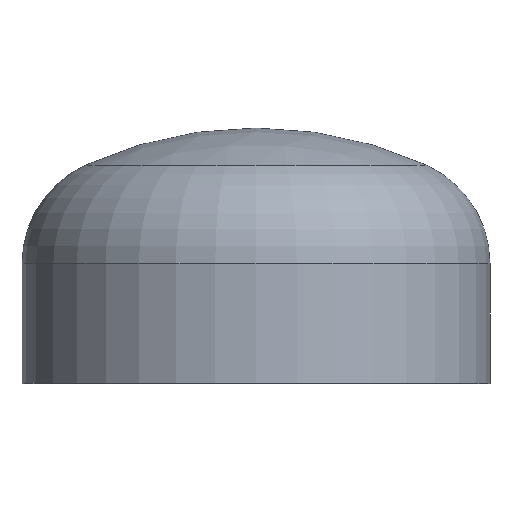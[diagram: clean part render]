
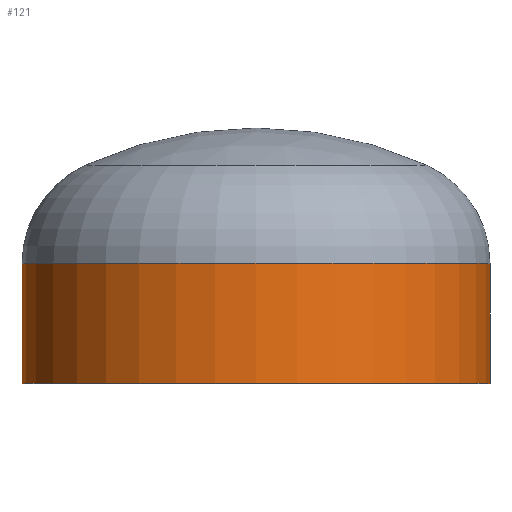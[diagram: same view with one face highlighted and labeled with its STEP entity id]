
A CAD part, top view. The second image highlights one B-rep face of the part: STEP entity #121.
In plain terms, the highlighted cylindrical face has radius 136.5 mm (diameter 273 mm), a partial arc.
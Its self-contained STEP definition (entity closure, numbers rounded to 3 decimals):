
#2 = AXIS2_PLACEMENT_3D ( 'NONE', #171, #256, #67 ) ;
#5 = AXIS2_PLACEMENT_3D ( 'NONE', #285, #104, #196 ) ;
#6 = LINE ( 'NONE', #381, #340 ) ;
#25 = CARTESIAN_POINT ( 'NONE',  ( -136.5, 70., 0. ) ) ;
#30 = AXIS2_PLACEMENT_3D ( 'NONE', #399, #134, #154 ) ;
#53 = DIRECTION ( 'NONE',  ( 0., -1., 0. ) ) ;
#64 = EDGE_CURVE ( 'NONE', #160, #404, #348, .T. ) ;
#65 = VERTEX_POINT ( 'NONE', #166 ) ;
#67 = DIRECTION ( 'NONE',  ( 1., 0., 0. ) ) ;
#104 = DIRECTION ( 'NONE',  ( 0., -1., 0. ) ) ;
#107 = ORIENTED_EDGE ( 'NONE', *, *, #351, .F. ) ;
#121 = ADVANCED_FACE ( 'NONE', ( #384 ), #165, .T. ) ;
#125 = CARTESIAN_POINT ( 'NONE',  ( 136.5, 70., 0. ) ) ;
#134 = DIRECTION ( 'NONE',  ( 0., -1., 0. ) ) ;
#143 = ORIENTED_EDGE ( 'NONE', *, *, #64, .T. ) ;
#147 = ORIENTED_EDGE ( 'NONE', *, *, #389, .T. ) ;
#149 = CARTESIAN_POINT ( 'NONE',  ( -136.5, 0., 0. ) ) ;
#154 = DIRECTION ( 'NONE',  ( 1., 0., 0. ) ) ;
#160 = VERTEX_POINT ( 'NONE', #25 ) ;
#165 = CYLINDRICAL_SURFACE ( 'NONE', #30, 136.5 ) ;
#166 = CARTESIAN_POINT ( 'NONE',  ( 136.5, 0., 0. ) ) ;
#171 = CARTESIAN_POINT ( 'NONE',  ( 0., 70., 0. ) ) ;
#196 = DIRECTION ( 'NONE',  ( 1., 0., 0. ) ) ;
#212 = DIRECTION ( 'NONE',  ( 0., -1., 0. ) ) ;
#256 = DIRECTION ( 'NONE',  ( 0., -1., 0. ) ) ;
#266 = CIRCLE ( 'NONE', #2, 136.5 ) ;
#275 = CIRCLE ( 'NONE', #5, 136.5 ) ;
#284 = VERTEX_POINT ( 'NONE', #125 ) ;
#285 = CARTESIAN_POINT ( 'NONE',  ( 0., 0., 0. ) ) ;
#294 = EDGE_LOOP ( 'NONE', ( #147, #143, #379, #107 ) ) ;
#333 = CARTESIAN_POINT ( 'NONE',  ( -136.5, 0., 0. ) ) ;
#337 = VECTOR ( 'NONE', #212, 1000. ) ;
#340 = VECTOR ( 'NONE', #53, 1000. ) ;
#348 = LINE ( 'NONE', #149, #337 ) ;
#351 = EDGE_CURVE ( 'NONE', #284, #65, #6, .T. ) ;
#379 = ORIENTED_EDGE ( 'NONE', *, *, #383, .F. ) ;
#381 = CARTESIAN_POINT ( 'NONE',  ( 136.5, 0., 0. ) ) ;
#383 = EDGE_CURVE ( 'NONE', #65, #404, #275, .T. ) ;
#384 = FACE_OUTER_BOUND ( 'NONE', #294, .T. ) ;
#389 = EDGE_CURVE ( 'NONE', #284, #160, #266, .T. ) ;
#399 = CARTESIAN_POINT ( 'NONE',  ( 0., 0., 0. ) ) ;
#404 = VERTEX_POINT ( 'NONE', #333 ) ;
